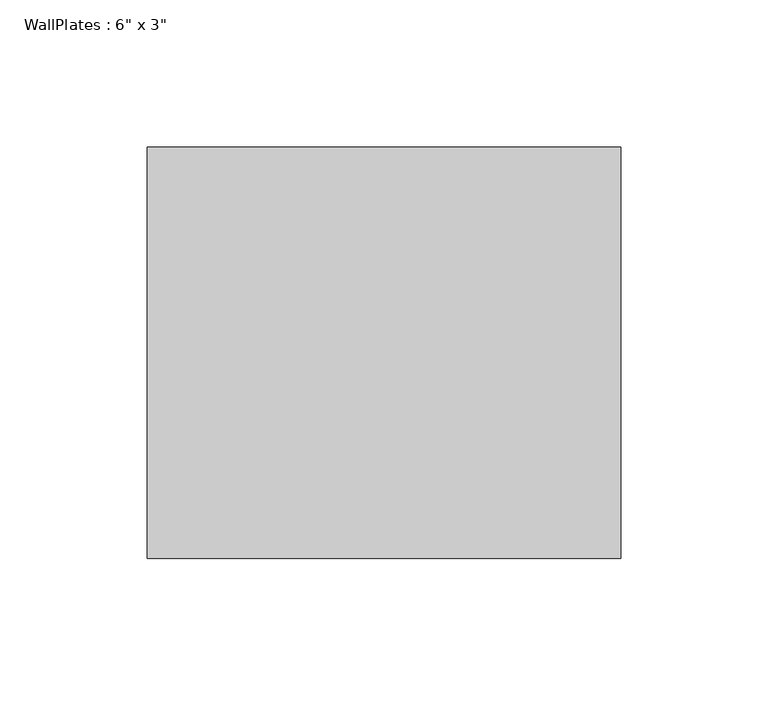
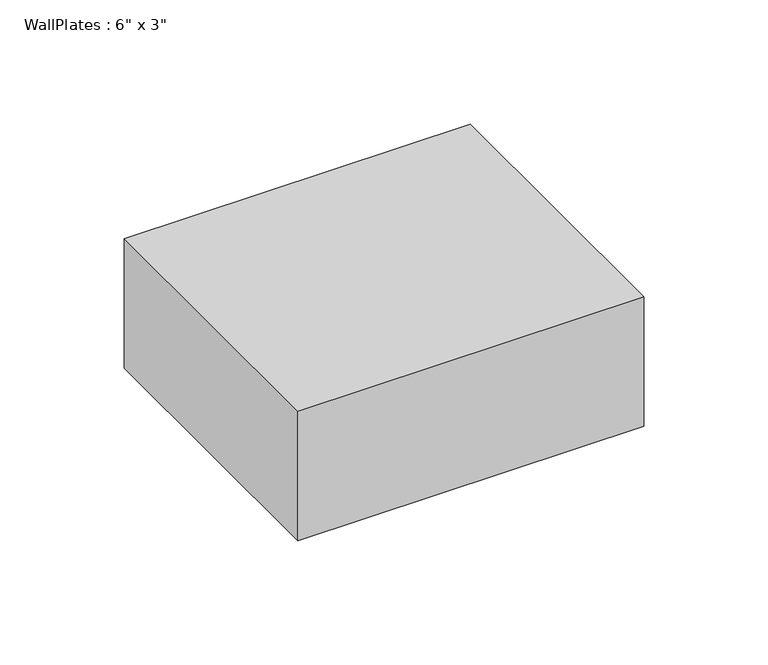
"""IFC4 building model written with IfcOpenShell, lengths in millimetres: beam geometry."""

from ifc_helpers import new_model, si_unit, frame, origin, place, context, project, spatial, polyline, outline, extrude, source, transform, mapped, element, save


def beam_5d155f78(model_context):
    return source(origin(), model_context, "Body", "SweptSolid", [
        extrude(outline(polyline([(-80.3275, -69.85), (-80.3275, 69.85), (80.3275, 69.85), (80.3275, -69.85), (-80.3275, -69.85)])), frame((0.0, 0.0, -31.75), z_axis=(0.0, 0.0, 1.0), x_axis=(1.0, 0.0, 0.0)), (0.0, 0.0, 1.0), 63.5),
    ])


if __name__ == "__main__":
    model = new_model("IFC4")
    model_context = context("Model", 3, world=origin())
    ifc_project = project(units=[si_unit("LENGTHUNIT", "METRE", prefix="MILLI")], contexts=[model_context])
    site = spatial("IfcSite", under=ifc_project)
    building = spatial("IfcBuilding", under=site)
    placement = place(None, origin())
    beam_shape = beam_5d155f78(model_context)
    element("IfcBeam", 1, ObjectType="WallPlates : 6\" x 3\"", at=placement, inside=building, context=model_context, shape_type="MappedRepresentation", body=[
        mapped(beam_shape, transform((0.0, 0.0, 0.0), x_axis=(1.0, 0.0, 0.0), y_axis=(0.0, 1.0, 0.0), z_axis=(0.0, 0.0, 1.0))),
    ])
    save(model, "model.ifc")
